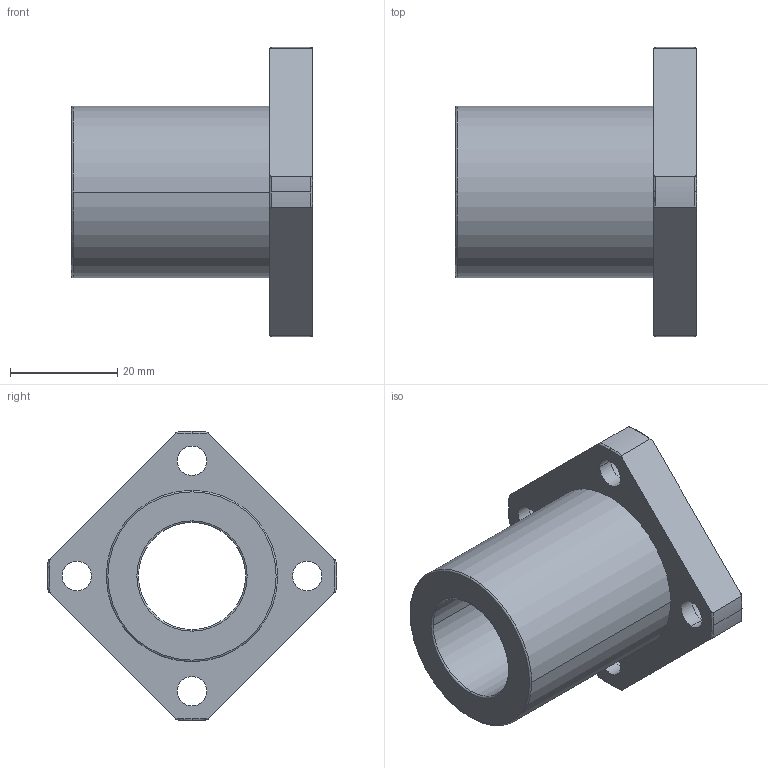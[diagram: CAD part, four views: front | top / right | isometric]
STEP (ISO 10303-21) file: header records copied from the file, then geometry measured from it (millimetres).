
FILE_DESCRIPTION(('FreeCAD Model'),'2;1');
FILE_NAME('Open CASCADE Shape Model','2021-05-03T14:54:48',('Author'),( ''),'Open CASCADE STEP processor 7.5','FreeCAD','Unknown');
FILE_SCHEMA(('AUTOMOTIVE_DESIGN { 1 0 10303 214 1 1 1 1 }'));
Length unit declared in the file: millimetre
Products named in the file (1): linear_lmek20uu
Bounding box: 45 x 54 x 54 mm (x, y, z)
Volume: 27911.8 mm3; surface area: 11206.6 mm2
Topology: 1 solids, 1 shells, 55 faces, 147 edges, 99 vertices
Faces by surface type: cylinder 26, torus 18, plane 11
Entity records: 5445 total; most frequent: CARTESIAN_POINT 2520, DIRECTION 560, ORIENTED_EDGE 294, PCURVE 294, DEFINITIONAL_REPRESENTATION 294, LINE 245, VECTOR 245, AXIS2_PLACEMENT_3D 149
